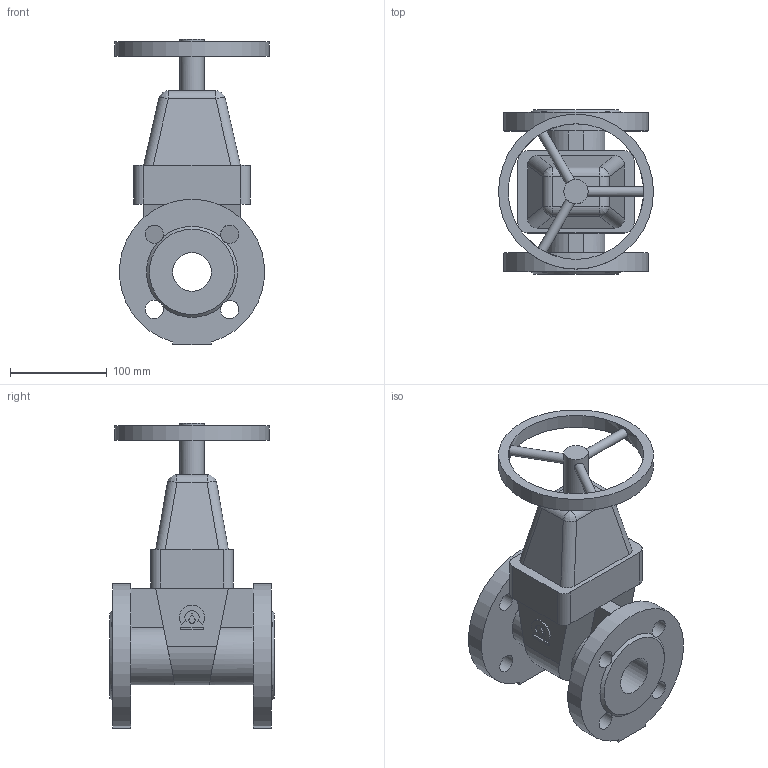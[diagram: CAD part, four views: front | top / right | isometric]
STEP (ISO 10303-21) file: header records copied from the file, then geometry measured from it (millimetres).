
FILE_DESCRIPTION(('STEP AP203'), '1');
FILE_NAME('Çàäâèæêà 47GV DN40 PN10_PN16_L170 ñ ìàõîâèêîì', '', ('UNSPECIFIED'), ('UNSPECIFIED'), 'ASCON STEP Converter 1.6', 'ASCON Math Kernel', '');
FILE_SCHEMA(('CONFIG_CONTROL_DESIGN'));
Length unit declared in the file: millimetre
Bounding box: 160 x 170 x 315 mm (x, y, z)
Volume: 2143095.8 mm3; surface area: 228467.5 mm2
Topology: 1 solids, 1 shells, 96 faces, 259 edges, 164 vertices
Faces by surface type: plane 50, cylinder 40, bspline 4, cone 2
Full cylindrical faces by diameter (mm): 10 x3, 19 x8, 25 x1, 40 x1, 140 x1, 160 x1
Entity records: 5384 total; most frequent: CARTESIAN_POINT 2209, DIRECTION 482, ORIENTED_EDGE 476, EDGE_CURVE 238, AXIS2_PLACEMENT_3D 177, VERTEX_POINT 164, EDGE_LOOP 140, LINE 128
